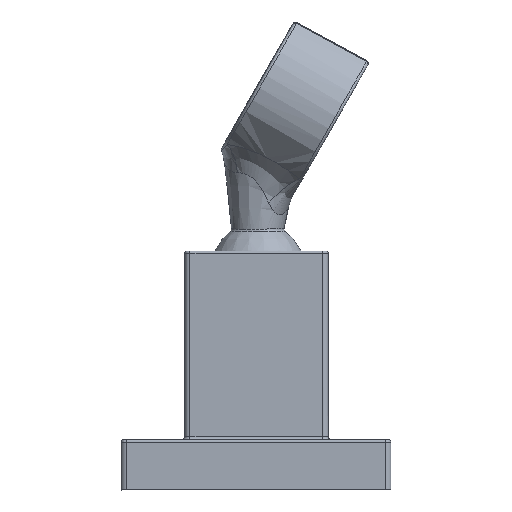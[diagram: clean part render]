
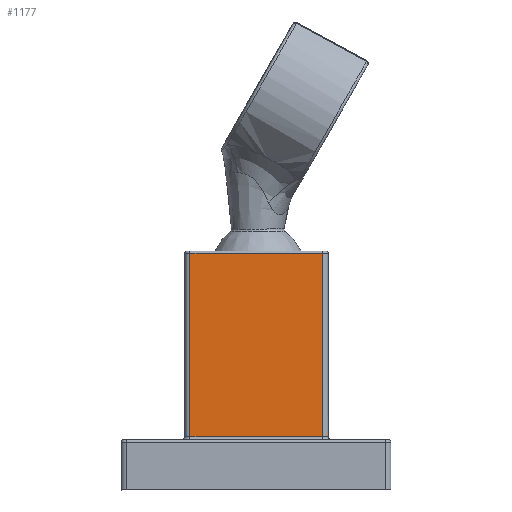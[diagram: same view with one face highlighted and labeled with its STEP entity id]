
A CAD part, left-side view. The second image highlights one B-rep face of the part: STEP entity #1177.
In plain terms, the highlighted planar face has unit normal (-1, 0, 0).
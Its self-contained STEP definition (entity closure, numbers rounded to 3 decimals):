
#230=FACE_OUTER_BOUND('',#313,.T.);
#313=EDGE_LOOP('',(#879,#880,#881,#882));
#406=LINE('',#2536,#464);
#407=LINE('',#2538,#465);
#408=LINE('',#2540,#466);
#409=LINE('',#2541,#467);
#464=VECTOR('',#1474,10.);
#465=VECTOR('',#1475,10.);
#466=VECTOR('',#1476,10.);
#467=VECTOR('',#1477,10.);
#531=VERTEX_POINT('',#2534);
#532=VERTEX_POINT('',#2535);
#533=VERTEX_POINT('',#2537);
#534=VERTEX_POINT('',#2539);
#655=EDGE_CURVE('',#531,#532,#406,.T.);
#656=EDGE_CURVE('',#532,#533,#407,.T.);
#657=EDGE_CURVE('',#533,#534,#408,.T.);
#658=EDGE_CURVE('',#534,#531,#409,.T.);
#879=ORIENTED_EDGE('',*,*,#655,.T.);
#880=ORIENTED_EDGE('',*,*,#656,.T.);
#881=ORIENTED_EDGE('',*,*,#657,.T.);
#882=ORIENTED_EDGE('',*,*,#658,.T.);
#1148=PLANE('',#1284);
#1177=ADVANCED_FACE('',(#230),#1148,.T.);
#1284=AXIS2_PLACEMENT_3D('',#2533,#1472,#1473);
#1472=DIRECTION('center_axis',(-1.,0.,0.));
#1473=DIRECTION('ref_axis',(0.,0.,1.));
#1474=DIRECTION('',(0.,0.,1.));
#1475=DIRECTION('',(0.,1.,0.));
#1476=DIRECTION('',(0.,0.,-1.));
#1477=DIRECTION('',(0.,-1.,0.));
#2533=CARTESIAN_POINT('Origin',(11.65,-25.235,-5.157));
#2534=CARTESIAN_POINT('',(11.65,-37.618,1.));
#2535=CARTESIAN_POINT('',(11.65,-37.618,35.276));
#2536=CARTESIAN_POINT('',(11.65,-37.618,1.));
#2537=CARTESIAN_POINT('',(11.65,-12.852,35.276));
#2538=CARTESIAN_POINT('',(11.65,-37.618,35.276));
#2539=CARTESIAN_POINT('',(11.65,-12.852,1.));
#2540=CARTESIAN_POINT('',(11.65,-12.852,35.276));
#2541=CARTESIAN_POINT('',(11.65,-12.852,1.));
